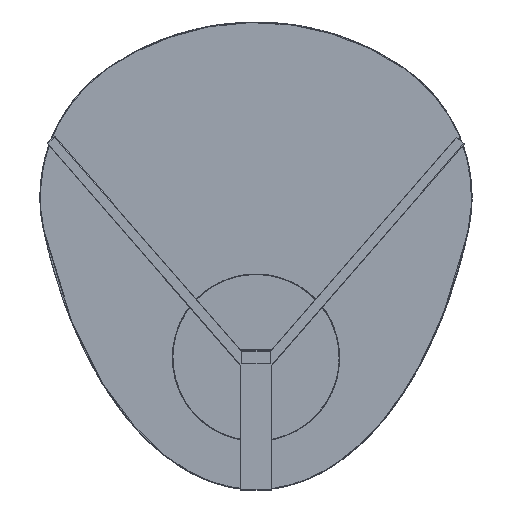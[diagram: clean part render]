
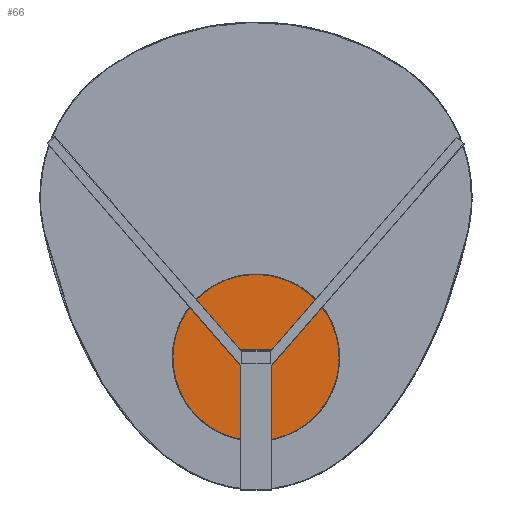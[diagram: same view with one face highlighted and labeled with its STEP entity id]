
A CAD part, front view. The second image highlights one B-rep face of the part: STEP entity #66.
In plain terms, the highlighted planar face has unit normal (0, -1, 0).
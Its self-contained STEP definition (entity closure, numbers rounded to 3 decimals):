
#66=ADVANCED_FACE('',(#192),#1694,.T.);
#192=FACE_OUTER_BOUND('',#318,.T.);
#318=EDGE_LOOP('',(#496,#497));
#496=ORIENTED_EDGE('',*,*,#1004,.F.);
#497=ORIENTED_EDGE('',*,*,#1013,.F.);
#1004=EDGE_CURVE('',#1554,#1555,#1414,.T.);
#1013=EDGE_CURVE('',#1555,#1554,#1421,.T.);
#1414=(
BOUNDED_CURVE()
B_SPLINE_CURVE(2,(#3769,#3770,#3771,#3772,#3773),.UNSPECIFIED.,.F.,.F.)
B_SPLINE_CURVE_WITH_KNOTS((3,2,3),(-249.757,-124.878,
0.),.UNSPECIFIED.)
CURVE()
GEOMETRIC_REPRESENTATION_ITEM()
RATIONAL_B_SPLINE_CURVE((1.,0.707,1.,0.707,1.))
REPRESENTATION_ITEM('')
);
#1421=(
BOUNDED_CURVE()
B_SPLINE_CURVE(2,(#3804,#3805,#3806,#3807,#3808),.UNSPECIFIED.,.F.,.F.)
B_SPLINE_CURVE_WITH_KNOTS((3,2,3),(-249.757,-124.878,
0.),.UNSPECIFIED.)
CURVE()
GEOMETRIC_REPRESENTATION_ITEM()
RATIONAL_B_SPLINE_CURVE((1.,0.707,1.,0.707,1.))
REPRESENTATION_ITEM('')
);
#1554=VERTEX_POINT('',#3763);
#1555=VERTEX_POINT('',#3764);
#1694=PLANE('',#1840);
#1840=AXIS2_PLACEMENT_3D('',#3680,#1871,$);
#1871=DIRECTION('',(0.,-1.,0.));
#3680=CARTESIAN_POINT('',(-95.401,-8.,-168.806));
#3763=CARTESIAN_POINT('',(0.,-8.,6.095));
#3764=CARTESIAN_POINT('',(0.,-8.,-152.905));
#3769=CARTESIAN_POINT('',(0.,-8.,6.095));
#3770=CARTESIAN_POINT('',(79.5,-8.,6.095));
#3771=CARTESIAN_POINT('',(79.5,-8.,-73.405));
#3772=CARTESIAN_POINT('',(79.5,-8.,-152.905));
#3773=CARTESIAN_POINT('',(0.,-8.,-152.905));
#3804=CARTESIAN_POINT('',(0.,-8.,-152.905));
#3805=CARTESIAN_POINT('',(-79.5,-8.,-152.905));
#3806=CARTESIAN_POINT('',(-79.5,-8.,-73.405));
#3807=CARTESIAN_POINT('',(-79.5,-8.,6.095));
#3808=CARTESIAN_POINT('',(0.,-8.,6.095));
